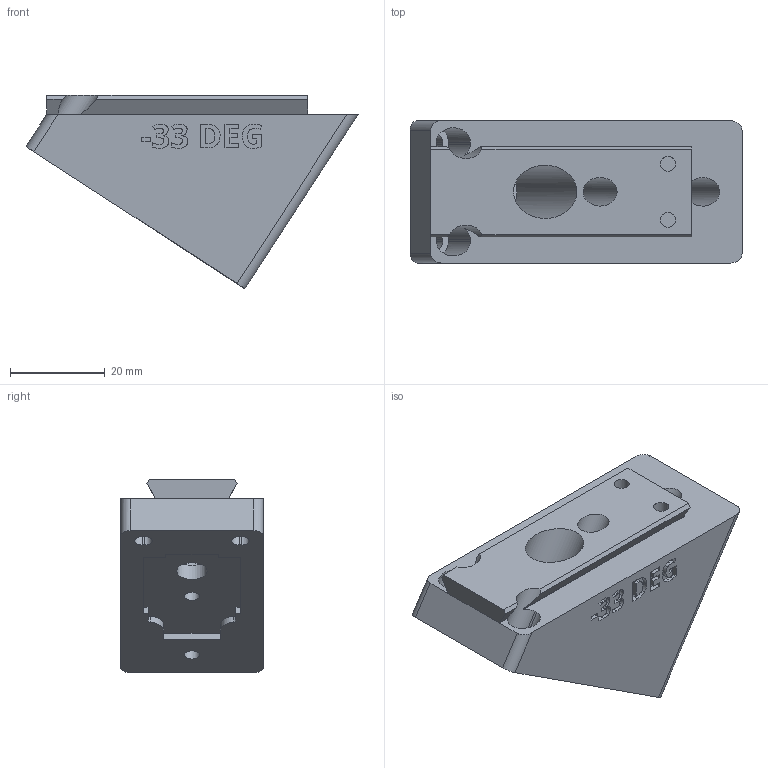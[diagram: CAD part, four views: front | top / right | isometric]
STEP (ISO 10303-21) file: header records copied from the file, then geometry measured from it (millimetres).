
FILE_DESCRIPTION(/* description */ ('STEP AP242 Edition 2','CAx-IF Rec.Pracs.---Representation and Presentation of Product Manufacturing Information (PMI)---4.0---2014-10-13','CAx-IF Rec.Pracs.---3D Tessellated Geometry---0.4---2014-09-14','2;1','CAx-IF Rec.Pracs.---User Defined Attributes---1.5---2016-08-15'),/* implementation_level */ '2;1');
FILE_NAME(/* name */ 'Camera Wedges - CAMERA MOUNTING WEDGE, NEG, -33 DEG',/* time_stamp */ '2026-08-11T00:07:59Z',/* author */ (''),/* organization */ (''),/* preprocessor_version */ 'ST-DEVELOPER v20',/* originating_system */ 'ONSHAPE BY PTC INC, 1.219',/* authorisation */ ' ');
FILE_SCHEMA (('AP242_MANAGED_MODEL_BASED_3D_ENGINEERING_MIM_LF { 1 0 10303 442 3 1 4 }'));
Length unit declared in the file: metre
Products named in the file (1): CAMERA MOUNTING WEDGE, NEG, -33 DEG
Bounding box: 69.93 x 30 x 40.75 mm (x, y, z)
Volume: 40995.8 mm3; surface area: 11373.5 mm2
Topology: 1 solids, 1 shells, 293 faces, 814 edges, 542 vertices
Faces by surface type: plane 145, bspline 100, cylinder 48
Full cylindrical faces by diameter (mm): 3.2 x4, 6 x2, 6.4 x1, 11.2 x1
Entity records: 9674 total; most frequent: CARTESIAN_POINT 2740, ORIENTED_EDGE 1610, DIRECTION 1102, EDGE_CURVE 805, VERTEX_POINT 541, LINE 496, VECTOR 496, EDGE_LOOP 330
